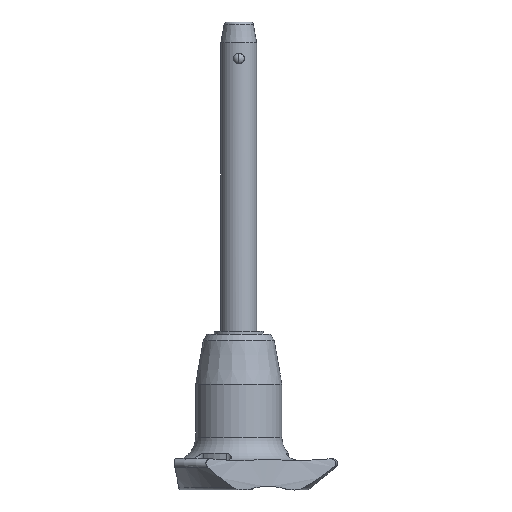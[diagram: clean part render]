
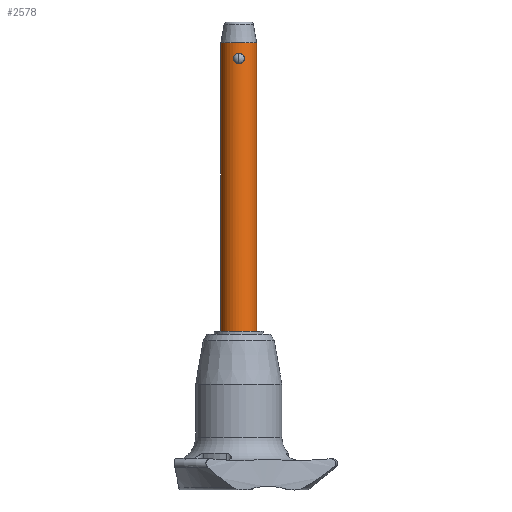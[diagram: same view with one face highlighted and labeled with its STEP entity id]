
A CAD part, front view. The second image highlights one B-rep face of the part: STEP entity #2578.
In plain terms, the highlighted cylindrical face has radius 3 mm (diameter 6 mm), a partial arc.
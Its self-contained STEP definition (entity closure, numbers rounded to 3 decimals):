
#38 = CARTESIAN_POINT ( 'NONE',  ( 0.238, -2.993, 1.712 ) ) ;
#177 = CARTESIAN_POINT ( 'NONE',  ( 0.937, -2.85, 0.744 ) ) ;
#202 = EDGE_CURVE ( 'NONE', #2704, #367, #963, .T. ) ;
#213 = CARTESIAN_POINT ( 'NONE',  ( 0., -3., 1.732 ) ) ;
#217 = EDGE_CURVE ( 'NONE', #1579, #268, #667, .T. ) ;
#268 = VERTEX_POINT ( 'NONE', #213 ) ;
#295 = FACE_BOUND ( 'NONE', #2131, .T. ) ;
#317 = CARTESIAN_POINT ( 'NONE',  ( -3., 0., -45. ) ) ;
#325 = VECTOR ( 'NONE', #2284, 1000. ) ;
#345 = CARTESIAN_POINT ( 'NONE',  ( -0.12, -3., 1.732 ) ) ;
#357 = CARTESIAN_POINT ( 'NONE',  ( -0.238, -2.993, 1.712 ) ) ;
#367 = VERTEX_POINT ( 'NONE', #317 ) ;
#370 = CARTESIAN_POINT ( 'NONE',  ( -0.46, -2.967, 0.101 ) ) ;
#374 = CARTESIAN_POINT ( 'NONE',  ( 0.738, -2.909, 0.317 ) ) ;
#575 = EDGE_CURVE ( 'NONE', #613, #2331, #1234, .T. ) ;
#589 = DIRECTION ( 'NONE',  ( 0., 0., 1. ) ) ;
#613 = VERTEX_POINT ( 'NONE', #2074 ) ;
#617 = CARTESIAN_POINT ( 'NONE',  ( 0., -3., 0. ) ) ;
#643 = CARTESIAN_POINT ( 'NONE',  ( 3., 0., -45. ) ) ;
#667 = B_SPLINE_CURVE_WITH_KNOTS ( 'NONE', 3,
 ( #2056, #2701, #2686, #1003, #2492, #374, #1853, #1218, #177, #1365, #2612, #1557, #1575, #2406, #1147, #38, #1464, #1053 ),
 .UNSPECIFIED., .F., .F.,
 ( 4, 2, 2, 2, 2, 2, 2, 2, 4 ),
 ( 0.003, 0.003, 0.004, 0.004, 0.004, 0.005, 0.005, 0.005, 0.006 ),
 .UNSPECIFIED. ) ;
#758 = EDGE_LOOP ( 'NONE', ( #2428, #1023, #977, #2000 ) ) ;
#763 = DIRECTION ( 'NONE',  ( 0., 0., 1. ) ) ;
#807 = CARTESIAN_POINT ( 'NONE',  ( -0.461, -2.967, 1.63 ) ) ;
#812 = DIRECTION ( 'NONE',  ( 1., 0., 0. ) ) ;
#963 = CIRCLE ( 'NONE', #2508, 3. ) ;
#972 = CARTESIAN_POINT ( 'NONE',  ( -0.811, -2.889, 1.319 ) ) ;
#977 = ORIENTED_EDGE ( 'NONE', *, *, #1675, .T. ) ;
#1003 = CARTESIAN_POINT ( 'NONE',  ( 0.459, -2.967, 0.101 ) ) ;
#1023 = ORIENTED_EDGE ( 'NONE', *, *, #202, .F. ) ;
#1045 = DIRECTION ( 'NONE',  ( 0., 0., -1. ) ) ;
#1053 = CARTESIAN_POINT ( 'NONE',  ( 0., -3., 1.732 ) ) ;
#1084 = CARTESIAN_POINT ( 'NONE',  ( -3., 0., -45. ) ) ;
#1126 = CYLINDRICAL_SURFACE ( 'NONE', #2520, 3. ) ;
#1137 = CARTESIAN_POINT ( 'NONE',  ( 0., -3., 0. ) ) ;
#1147 = CARTESIAN_POINT ( 'NONE',  ( 0.461, -2.966, 1.63 ) ) ;
#1213 = CARTESIAN_POINT ( 'NONE',  ( -0.238, -2.993, 0.021 ) ) ;
#1218 = CARTESIAN_POINT ( 'NONE',  ( 0.91, -2.859, 0.626 ) ) ;
#1234 = CIRCLE ( 'NONE', #1937, 3. ) ;
#1249 = DIRECTION ( 'NONE',  ( 1., 0., 0. ) ) ;
#1365 = CARTESIAN_POINT ( 'NONE',  ( 0.937, -2.85, 0.985 ) ) ;
#1406 = CARTESIAN_POINT ( 'NONE',  ( -0.937, -2.85, 0.749 ) ) ;
#1408 = EDGE_CURVE ( 'NONE', #268, #1579, #2154, .T. ) ;
#1417 = VECTOR ( 'NONE', #763, 1000. ) ;
#1423 = CARTESIAN_POINT ( 'NONE',  ( -0.911, -2.859, 0.63 ) ) ;
#1446 = CARTESIAN_POINT ( 'NONE',  ( 3., 0., -45. ) ) ;
#1464 = CARTESIAN_POINT ( 'NONE',  ( 0.12, -3., 1.732 ) ) ;
#1468 = LINE ( 'NONE', #1084, #325 ) ;
#1557 = CARTESIAN_POINT ( 'NONE',  ( 0.812, -2.888, 1.317 ) ) ;
#1575 = CARTESIAN_POINT ( 'NONE',  ( 0.74, -2.909, 1.414 ) ) ;
#1579 = VERTEX_POINT ( 'NONE', #1137 ) ;
#1616 = CARTESIAN_POINT ( 'NONE',  ( -0.91, -2.859, 1.105 ) ) ;
#1656 = CARTESIAN_POINT ( 'NONE',  ( -0.739, -2.909, 1.414 ) ) ;
#1675 = EDGE_CURVE ( 'NONE', #2704, #613, #2445, .T. ) ;
#1763 = ORIENTED_EDGE ( 'NONE', *, *, #1408, .F. ) ;
#1816 = ORIENTED_EDGE ( 'NONE', *, *, #217, .F. ) ;
#1819 = DIRECTION ( 'NONE',  ( 1., 0., 0. ) ) ;
#1820 = CARTESIAN_POINT ( 'NONE',  ( -0.937, -2.85, 0.986 ) ) ;
#1853 = CARTESIAN_POINT ( 'NONE',  ( 0.811, -2.889, 0.412 ) ) ;
#1871 = CARTESIAN_POINT ( 'NONE',  ( 0., 0., -45. ) ) ;
#1928 = CARTESIAN_POINT ( 'NONE',  ( -3., 0., 3.5 ) ) ;
#1937 = AXIS2_PLACEMENT_3D ( 'NONE', #2309, #1045, #1249 ) ;
#2000 = ORIENTED_EDGE ( 'NONE', *, *, #575, .T. ) ;
#2009 = CARTESIAN_POINT ( 'NONE',  ( 0., 0., -45. ) ) ;
#2021 = CARTESIAN_POINT ( 'NONE',  ( -0.563, -2.948, 1.57 ) ) ;
#2050 = CARTESIAN_POINT ( 'NONE',  ( -0.564, -2.948, 0.162 ) ) ;
#2056 = CARTESIAN_POINT ( 'NONE',  ( 0., -3., 0. ) ) ;
#2074 = CARTESIAN_POINT ( 'NONE',  ( 3., 0., 3.5 ) ) ;
#2131 = EDGE_LOOP ( 'NONE', ( #1763, #1816 ) ) ;
#2154 = B_SPLINE_CURVE_WITH_KNOTS ( 'NONE', 3,
 ( #2693, #345, #357, #807, #2021, #1656, #972, #1616, #1820, #1406, #1423, #2236, #2257, #2050, #370, #1213, #2502, #617 ),
 .UNSPECIFIED., .F., .F.,
 ( 4, 2, 2, 2, 2, 2, 2, 2, 4 ),
 ( 0., 0., 0.001, 0.001, 0.001, 0.002, 0.002, 0.002, 0.003 ),
 .UNSPECIFIED. ) ;
#2184 = FACE_OUTER_BOUND ( 'NONE', #758, .T. ) ;
#2236 = CARTESIAN_POINT ( 'NONE',  ( -0.812, -2.889, 0.414 ) ) ;
#2257 = CARTESIAN_POINT ( 'NONE',  ( -0.74, -2.909, 0.318 ) ) ;
#2276 = DIRECTION ( 'NONE',  ( 0., 0., -1. ) ) ;
#2284 = DIRECTION ( 'NONE',  ( 0., 0., 1. ) ) ;
#2309 = CARTESIAN_POINT ( 'NONE',  ( 0., 0., 3.5 ) ) ;
#2330 = EDGE_CURVE ( 'NONE', #367, #2331, #1468, .T. ) ;
#2331 = VERTEX_POINT ( 'NONE', #1928 ) ;
#2406 = CARTESIAN_POINT ( 'NONE',  ( 0.564, -2.948, 1.57 ) ) ;
#2428 = ORIENTED_EDGE ( 'NONE', *, *, #2330, .F. ) ;
#2445 = LINE ( 'NONE', #1446, #1417 ) ;
#2492 = CARTESIAN_POINT ( 'NONE',  ( 0.563, -2.948, 0.162 ) ) ;
#2502 = CARTESIAN_POINT ( 'NONE',  ( -0.118, -3., 0. ) ) ;
#2508 = AXIS2_PLACEMENT_3D ( 'NONE', #1871, #2276, #812 ) ;
#2520 = AXIS2_PLACEMENT_3D ( 'NONE', #2009, #589, #1819 ) ;
#2578 = ADVANCED_FACE ( 'NONE', ( #2184, #295 ), #1126, .T. ) ;
#2612 = CARTESIAN_POINT ( 'NONE',  ( 0.911, -2.859, 1.103 ) ) ;
#2686 = CARTESIAN_POINT ( 'NONE',  ( 0.238, -2.993, 0.021 ) ) ;
#2693 = CARTESIAN_POINT ( 'NONE',  ( 0., -3., 1.732 ) ) ;
#2701 = CARTESIAN_POINT ( 'NONE',  ( 0.118, -3., 0. ) ) ;
#2704 = VERTEX_POINT ( 'NONE', #643 ) ;
